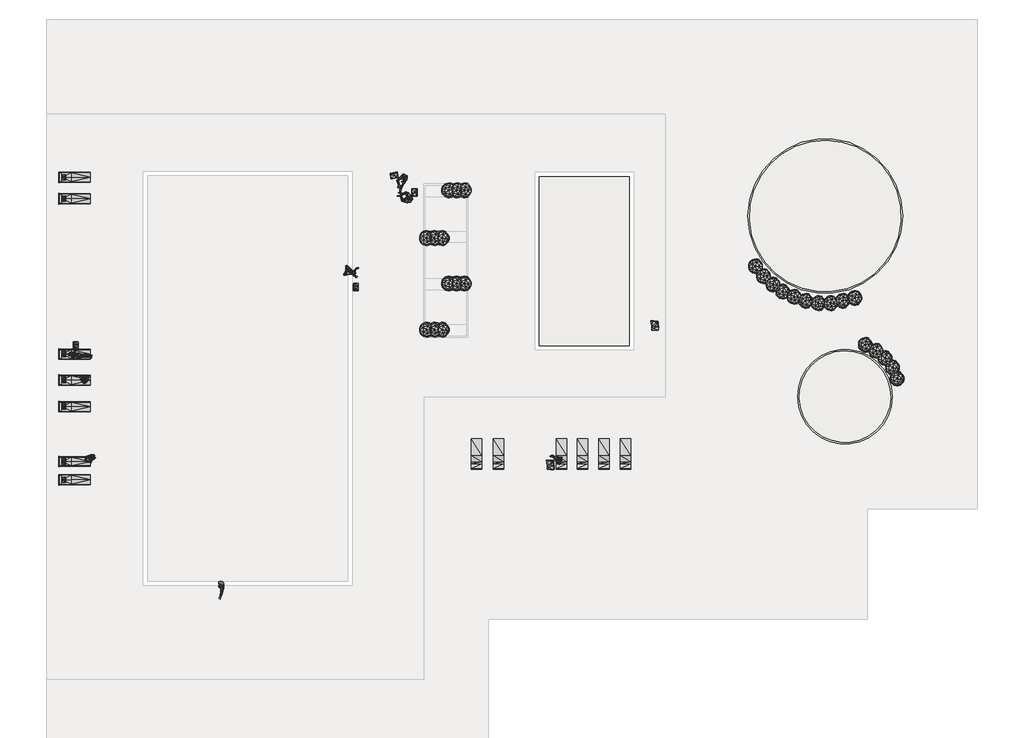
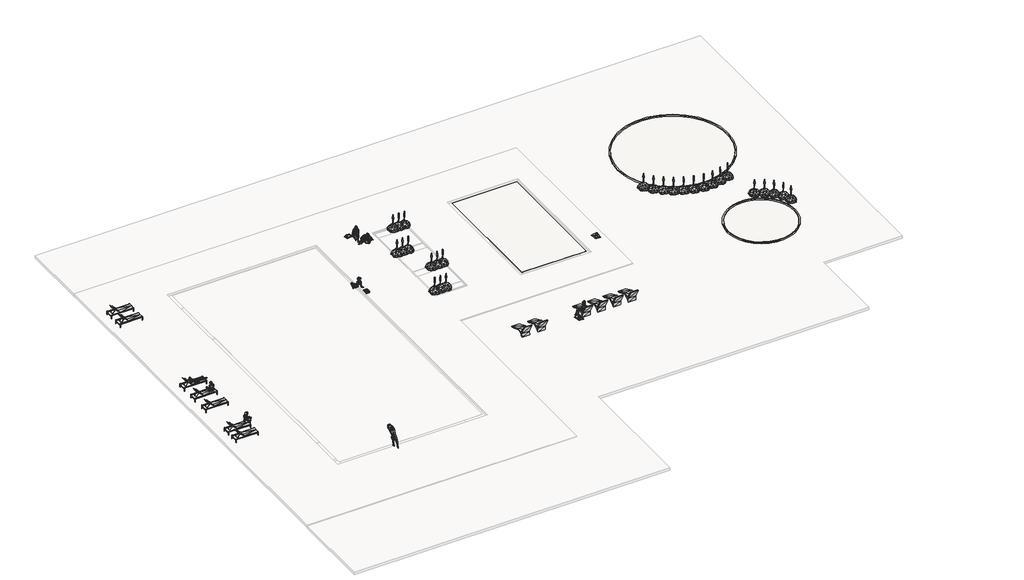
# One storey, part 2 of 2: 54 geographic elements, 6 proxies, 6 slabs.
"""IFC4 building model written with IfcOpenShell, lengths in millimetres."""

from ifc_helpers import new_model, si_unit, point, frame, frame_2d, origin, place, context, project, spatial, polyline, circle_curve, trimmed, segment, composite_curve, outline, extrude, transform, mapped, element, save
from components import generic_models_2f38e3b8, geographic_element_90c88f6b, geographic_element_3ec232f4, geographic_element_9a517dda, geographic_element_e2de325b, geographic_element_986b041f, geographic_element_7d3aa87a, geographic_element_d79e2ef8, geographic_element_a2d18596, geographic_element_6d1b33b0, enscape_assetdefinition_sun_bed_02_enscape_assetdefinition_c80486b6, enscape_assetdefinition_sun_bed_03_enscape_assetdefinition_cf905068, enscape_assetdefinition_throw_03_enscape_assetdefinition_2d4c1df4, enscape_assetdefinition_throw_04_enscape_assetdefinition_2e475fd9, enscape_assetdefinition_throw_enscape_assetdefinition_throw_fa2a812f

model = new_model("IFC4")

# Units and contexts
model_context = context("Model", 3, world=origin())
ifc_project = project(units=[si_unit("LENGTHUNIT", "METRE", prefix="MILLI")], contexts=[model_context])

# Site, building, storey
site = spatial("IfcSite", under=ifc_project)
building = spatial("IfcBuilding", under=site)
storey = spatial("IfcBuildingStorey", under=building, Name="1_NPlaya", Elevation=0.0)

# Proxies
placement = place(None, origin())
generic_models_shape = generic_models_2f38e3b8(model_context)
element("IfcBuildingElementProxy", 1, Name="ROSA GRES_115 : Pieza 115_Aqua_Plomo_Anti-Slip", ObjectType="ROSA GRES_115 : Pieza 115_Aqua_Plomo_Anti-Slip", at=placement, inside=storey, context=model_context, shape_type="MappedRepresentation", body=[
    mapped(generic_models_shape, transform((5120.0677212, 21876.3926616, -240.0), x_axis=(0.0, -1.0, 0.0), y_axis=(1.0, 0.0, 0.0), z_axis=(0.0, 0.0, 1.0))),
])
element("IfcBuildingElementProxy", 2, Name="ROSA GRES_115 : Pieza 115_Aqua_Plomo_Anti-Slip", ObjectType="ROSA GRES_115 : Pieza 115_Aqua_Plomo_Anti-Slip", at=placement, inside=storey, context=model_context, shape_type="MappedRepresentation", body=[
    mapped(generic_models_shape, transform((4520.0677212, 21276.3926616, -490.0), x_axis=(0.0, -1.0, 0.0), y_axis=(1.0, 0.0, 0.0), z_axis=(0.0, 0.0, 1.0))),
])
element("IfcBuildingElementProxy", 3, Name="ROSA GRES_115 : Pieza 115_Aqua_Plomo_Anti-Slip", ObjectType="ROSA GRES_115 : Pieza 115_Aqua_Plomo_Anti-Slip", at=placement, inside=storey, context=model_context, shape_type="MappedRepresentation", body=[
    mapped(generic_models_shape, transform((3920.0677212, 20676.3926616, -740.0), x_axis=(0.0, -1.0, 0.0), y_axis=(1.0, 0.0, 0.0), z_axis=(0.0, 0.0, 1.0))),
])
element("IfcBuildingElementProxy", 4, Name="ROSA GRES_115 : Pieza 115_Aqua_Plomo_Anti-Slip", ObjectType="ROSA GRES_115 : Pieza 115_Aqua_Plomo_Anti-Slip", at=placement, inside=storey, context=model_context, shape_type="MappedRepresentation", body=[
    mapped(generic_models_shape, transform((3320.0677212, 20076.3926616, -990.0), x_axis=(0.0, -1.0, 0.0), y_axis=(1.0, 0.0, 0.0), z_axis=(0.0, 0.0, 1.0))),
])
element("IfcBuildingElementProxy", 5, Name="ROSA GRES_115 : Pieza 115_Aqua_Plomo_Anti-Slip", ObjectType="ROSA GRES_115 : Pieza 115_Aqua_Plomo_Anti-Slip", at=placement, inside=storey, context=model_context, shape_type="MappedRepresentation", body=[
    mapped(generic_models_shape, transform((19723.8701143, 21213.4310621, -265.0), x_axis=(1.0, 0.0, 0.0), y_axis=(0.0, 1.0, 0.0), z_axis=(0.0, 0.0, 1.0))),
])
element("IfcBuildingElementProxy", 6, Name="ROSA GRES_115 : Pieza 115_Aqua_Plomo_Anti-Slip", ObjectType="ROSA GRES_115 : Pieza 115_Aqua_Plomo_Anti-Slip", at=placement, inside=storey, context=model_context, shape_type="MappedRepresentation", body=[
    mapped(generic_models_shape, transform((20973.8701143, 20013.4310621, -490.0), x_axis=(1.0, 0.0, 0.0), y_axis=(0.0, 1.0, 0.0), z_axis=(0.0, 0.0, 1.0))),
])

# Geographic elements
geographic_element_shape = geographic_element_90c88f6b(model_context)
element("IfcGeographicElement", 7, ObjectType="Enscape AssetDefinition - Desert Spoon : Enscape AssetDefinition - Desert Spoon", at=placement, inside=storey, context=model_context, shape_type="MappedRepresentation", body=[
    mapped(geographic_element_shape, transform((38811.2675148, 14481.6800495, -50.0), x_axis=(1.0, 0.0, 0.0), y_axis=(0.0, 1.0, 0.0), z_axis=(0.0, 0.0, 1.0))),
])
element("IfcGeographicElement", 8, ObjectType="Enscape AssetDefinition - Desert Spoon : Enscape AssetDefinition - Desert Spoon", at=placement, inside=storey, context=model_context, shape_type="MappedRepresentation", body=[
    mapped(geographic_element_shape, transform((39484.6488808, 14109.1712087, -50.0), x_axis=(1.0, 0.0, 0.0), y_axis=(0.0, 1.0, 0.0), z_axis=(0.0, 0.0, 1.0))),
])
element("IfcGeographicElement", 9, ObjectType="Enscape AssetDefinition - Desert Spoon : Enscape AssetDefinition - Desert Spoon", at=placement, inside=storey, context=model_context, shape_type="MappedRepresentation", body=[
    mapped(geographic_element_shape, transform((40072.0666682, 13636.3715261, -50.0), x_axis=(1.0, 0.0, 0.0), y_axis=(0.0, 1.0, 0.0), z_axis=(0.0, 0.0, 1.0))),
])
element("IfcGeographicElement", 10, ObjectType="Enscape AssetDefinition - Desert Spoon : Enscape AssetDefinition - Desert Spoon", at=placement, inside=storey, context=model_context, shape_type="MappedRepresentation", body=[
    mapped(geographic_element_shape, transform((40544.8663508, 13034.6264756, -50.0), x_axis=(1.0, 0.0, 0.0), y_axis=(0.0, 1.0, 0.0), z_axis=(0.0, 0.0, 1.0))),
])
element("IfcGeographicElement", 11, ObjectType="Enscape AssetDefinition - Desert Spoon : Enscape AssetDefinition - Desert Spoon", at=placement, inside=storey, context=model_context, shape_type="MappedRepresentation", body=[
    mapped(geographic_element_shape, transform((40831.411613, 12346.9178464, -50.0), x_axis=(1.0, 0.0, 0.0), y_axis=(0.0, 1.0, 0.0), z_axis=(0.0, 0.0, 1.0))),
])
element("IfcGeographicElement", 12, ObjectType="Enscape AssetDefinition - Desert Spoon : Enscape AssetDefinition - Desert Spoon", at=placement, inside=storey, context=model_context, shape_type="MappedRepresentation", body=[
    mapped(geographic_element_shape, transform((31849.8751077, 19462.7992734, -50.0), x_axis=(1.0, 0.0, 0.0), y_axis=(0.0, 1.0, 0.0), z_axis=(0.0, 0.0, 1.0))),
])
element("IfcGeographicElement", 13, ObjectType="Enscape AssetDefinition - Desert Spoon : Enscape AssetDefinition - Desert Spoon", at=placement, inside=storey, context=model_context, shape_type="MappedRepresentation", body=[
    mapped(geographic_element_shape, transform((32360.6731837, 18827.4163008, -50.0), x_axis=(1.0, 0.0, 0.0), y_axis=(0.0, 1.0, 0.0), z_axis=(0.0, 0.0, 1.0))),
])
element("IfcGeographicElement", 14, ObjectType="Enscape AssetDefinition - Desert Spoon : Enscape AssetDefinition - Desert Spoon", at=placement, inside=storey, context=model_context, shape_type="MappedRepresentation", body=[
    mapped(geographic_element_shape, transform((32958.6806873, 18304.1597351, -50.0), x_axis=(1.0, 0.0, 0.0), y_axis=(0.0, 1.0, 0.0), z_axis=(0.0, 0.0, 1.0))),
])
element("IfcGeographicElement", 15, ObjectType="Enscape AssetDefinition - Desert Spoon : Enscape AssetDefinition - Desert Spoon", at=placement, inside=storey, context=model_context, shape_type="MappedRepresentation", body=[
    mapped(geographic_element_shape, transform((33581.6051703, 17855.6541074, -50.0), x_axis=(1.0, 0.0, 0.0), y_axis=(0.0, 1.0, 0.0), z_axis=(0.0, 0.0, 1.0))),
])
element("IfcGeographicElement", 16, ObjectType="Enscape AssetDefinition - Desert Spoon : Enscape AssetDefinition - Desert Spoon", at=placement, inside=storey, context=model_context, shape_type="MappedRepresentation", body=[
    mapped(geographic_element_shape, transform((34291.7390808, 17531.7333763, -50.0), x_axis=(1.0, 0.0, 0.0), y_axis=(0.0, 1.0, 0.0), z_axis=(0.0, 0.0, 1.0))),
])
element("IfcGeographicElement", 17, ObjectType="Enscape AssetDefinition - Desert Spoon : Enscape AssetDefinition - Desert Spoon", at=placement, inside=storey, context=model_context, shape_type="MappedRepresentation", body=[
    mapped(geographic_element_shape, transform((35039.2484604, 17270.1050934, -50.0), x_axis=(1.0, 0.0, 0.0), y_axis=(0.0, 1.0, 0.0), z_axis=(0.0, 0.0, 1.0))),
])
element("IfcGeographicElement", 18, ObjectType="Enscape AssetDefinition - Desert Spoon : Enscape AssetDefinition - Desert Spoon", at=placement, inside=storey, context=model_context, shape_type="MappedRepresentation", body=[
    mapped(geographic_element_shape, transform((35836.5917985, 17120.6032175, -50.0), x_axis=(1.0, 0.0, 0.0), y_axis=(0.0, 1.0, 0.0), z_axis=(0.0, 0.0, 1.0))),
])
element("IfcGeographicElement", 19, ObjectType="Enscape AssetDefinition - Desert Spoon : Enscape AssetDefinition - Desert Spoon", at=placement, inside=storey, context=model_context, shape_type="MappedRepresentation", body=[
    mapped(geographic_element_shape, transform((36609.0181574, 17120.6032175, -50.0), x_axis=(1.0, 0.0, 0.0), y_axis=(0.0, 1.0, 0.0), z_axis=(0.0, 0.0, 1.0))),
])
element("IfcGeographicElement", 20, ObjectType="Enscape AssetDefinition - Desert Spoon : Enscape AssetDefinition - Desert Spoon", at=placement, inside=storey, context=model_context, shape_type="MappedRepresentation", body=[
    mapped(geographic_element_shape, transform((37381.4445163, 17270.1050934, -50.0), x_axis=(1.0, 0.0, 0.0), y_axis=(0.0, 1.0, 0.0), z_axis=(0.0, 0.0, 1.0))),
])
element("IfcGeographicElement", 21, ObjectType="Enscape AssetDefinition - Desert Spoon : Enscape AssetDefinition - Desert Spoon", at=placement, inside=storey, context=model_context, shape_type="MappedRepresentation", body=[
    mapped(geographic_element_shape, transform((38150.7302215, 17453.2946746, -50.0), x_axis=(1.0, 0.0, 0.0), y_axis=(0.0, 1.0, 0.0), z_axis=(0.0, 0.0, 1.0))),
])
element("IfcGeographicElement", 22, ObjectType="Enscape AssetDefinition - Desert Spoon : Enscape AssetDefinition - Desert Spoon", at=placement, inside=storey, context=model_context, shape_type="MappedRepresentation", body=[
    mapped(geographic_element_shape, transform((13404.8701143, 24273.4310621, -50.0), x_axis=(1.0, 0.0, 0.0), y_axis=(0.0, 1.0, 0.0), z_axis=(0.0, 0.0, 1.0))),
])
element("IfcGeographicElement", 23, ObjectType="Enscape AssetDefinition - Desert Spoon : Enscape AssetDefinition - Desert Spoon", at=placement, inside=storey, context=model_context, shape_type="MappedRepresentation", body=[
    mapped(geographic_element_shape, transform((12904.8701143, 24273.4310621, -50.0), x_axis=(1.0, 0.0, 0.0), y_axis=(0.0, 1.0, 0.0), z_axis=(0.0, 0.0, 1.0))),
])
element("IfcGeographicElement", 24, ObjectType="Enscape AssetDefinition - Desert Spoon : Enscape AssetDefinition - Desert Spoon", at=placement, inside=storey, context=model_context, shape_type="MappedRepresentation", body=[
    mapped(geographic_element_shape, transform((12404.8701143, 24273.4310621, -50.0), x_axis=(1.0, 0.0, 0.0), y_axis=(0.0, 1.0, 0.0), z_axis=(0.0, 0.0, 1.0))),
])
element("IfcGeographicElement", 25, ObjectType="Enscape AssetDefinition - Desert Spoon : Enscape AssetDefinition - Desert Spoon", at=placement, inside=storey, context=model_context, shape_type="MappedRepresentation", body=[
    mapped(geographic_element_shape, transform((13404.8701143, 18368.6310621, -50.0), x_axis=(1.0, 0.0, 0.0), y_axis=(0.0, 1.0, 0.0), z_axis=(0.0, 0.0, 1.0))),
])
element("IfcGeographicElement", 26, ObjectType="Enscape AssetDefinition - Desert Spoon : Enscape AssetDefinition - Desert Spoon", at=placement, inside=storey, context=model_context, shape_type="MappedRepresentation", body=[
    mapped(geographic_element_shape, transform((12904.8701143, 18368.6310621, -50.0), x_axis=(1.0, 0.0, 0.0), y_axis=(0.0, 1.0, 0.0), z_axis=(0.0, 0.0, 1.0))),
])
element("IfcGeographicElement", 27, ObjectType="Enscape AssetDefinition - Desert Spoon : Enscape AssetDefinition - Desert Spoon", at=placement, inside=storey, context=model_context, shape_type="MappedRepresentation", body=[
    mapped(geographic_element_shape, transform((12404.8701143, 18368.6310621, -50.0), x_axis=(1.0, 0.0, 0.0), y_axis=(0.0, 1.0, 0.0), z_axis=(0.0, 0.0, 1.0))),
])
element("IfcGeographicElement", 28, ObjectType="Enscape AssetDefinition - Desert Spoon : Enscape AssetDefinition - Desert Spoon", at=placement, inside=storey, context=model_context, shape_type="MappedRepresentation", body=[
    mapped(geographic_element_shape, transform((12000.0701143, 21245.3926616, -50.0), x_axis=(1.0, 0.0, 0.0), y_axis=(0.0, 1.0, 0.0), z_axis=(0.0, 0.0, 1.0))),
])
element("IfcGeographicElement", 29, ObjectType="Enscape AssetDefinition - Desert Spoon : Enscape AssetDefinition - Desert Spoon", at=placement, inside=storey, context=model_context, shape_type="MappedRepresentation", body=[
    mapped(geographic_element_shape, transform((11500.0701143, 21245.3926616, -50.0), x_axis=(1.0, 0.0, 0.0), y_axis=(0.0, 1.0, 0.0), z_axis=(0.0, 0.0, 1.0))),
])
element("IfcGeographicElement", 30, ObjectType="Enscape AssetDefinition - Desert Spoon : Enscape AssetDefinition - Desert Spoon", at=placement, inside=storey, context=model_context, shape_type="MappedRepresentation", body=[
    mapped(geographic_element_shape, transform((11000.0701143, 21245.3926616, -50.0), x_axis=(1.0, 0.0, 0.0), y_axis=(0.0, 1.0, 0.0), z_axis=(0.0, 0.0, 1.0))),
])
element("IfcGeographicElement", 31, ObjectType="Enscape AssetDefinition - Desert Spoon : Enscape AssetDefinition - Desert Spoon", at=placement, inside=storey, context=model_context, shape_type="MappedRepresentation", body=[
    mapped(geographic_element_shape, transform((12000.0701143, 15440.5926616, -50.0), x_axis=(1.0, 0.0, 0.0), y_axis=(0.0, 1.0, 0.0), z_axis=(0.0, 0.0, 1.0))),
])
element("IfcGeographicElement", 32, ObjectType="Enscape AssetDefinition - Desert Spoon : Enscape AssetDefinition - Desert Spoon", at=placement, inside=storey, context=model_context, shape_type="MappedRepresentation", body=[
    mapped(geographic_element_shape, transform((11500.0701143, 15440.5926616, -50.0), x_axis=(1.0, 0.0, 0.0), y_axis=(0.0, 1.0, 0.0), z_axis=(0.0, 0.0, 1.0))),
])
element("IfcGeographicElement", 33, ObjectType="Enscape AssetDefinition - Desert Spoon : Enscape AssetDefinition - Desert Spoon", at=placement, inside=storey, context=model_context, shape_type="MappedRepresentation", body=[
    mapped(geographic_element_shape, transform((11000.0701143, 15440.5926616, -50.0), x_axis=(1.0, 0.0, 0.0), y_axis=(0.0, 1.0, 0.0), z_axis=(0.0, 0.0, 1.0))),
])
geographic_element_2_shape = geographic_element_3ec232f4(model_context)
element("IfcGeographicElement", 34, ObjectType="Enscape AssetDefinition - Asya, Lying : Enscape AssetDefinition - Asya, Lying", at=placement, inside=storey, context=model_context, shape_type="MappedRepresentation", body=[
    mapped(geographic_element_2_shape, transform((-11011.7685319, 13812.5550799, 340.0), x_axis=(-0.9930230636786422, 0.11792029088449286, 0.0), y_axis=(-0.11792029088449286, -0.9930230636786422, 0.0), z_axis=(0.0, 0.0, 1.0))),
])
geographic_element_3_shape = geographic_element_9a517dda(model_context)
element("IfcGeographicElement", 35, ObjectType="Enscape AssetDefinition - Elena, Sitting : Enscape AssetDefinition - Elena, Sitting", at=placement, inside=storey, context=model_context, shape_type="MappedRepresentation", body=[
    mapped(geographic_element_3_shape, transform((19342.0652822, 7151.9002853, -50.0), x_axis=(0.13917310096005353, -0.9902680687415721, 0.0), y_axis=(0.9902680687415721, 0.13917310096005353, 0.0), z_axis=(0.0, 0.0, 1.0))),
])
geographic_element_4_shape = geographic_element_e2de325b(model_context)
element("IfcGeographicElement", 36, ObjectType="Enscape AssetDefinition - Asya Sitting : Enscape AssetDefinition - Asya Sitting", at=placement, inside=storey, context=model_context, shape_type="MappedRepresentation", body=[
    mapped(geographic_element_4_shape, transform((-10658.0490447, 12352.9996039, 330.0), x_axis=(-0.9698324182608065, 0.24377259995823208, 0.0), y_axis=(-0.24377259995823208, -0.9698324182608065, 0.0), z_axis=(0.0, 0.0, 1.0))),
])
geographic_element_5_shape = geographic_element_986b041f(model_context)
element("IfcGeographicElement", 37, ObjectType="Enscape AssetDefinition - Juliette, Sitting : Enscape AssetDefinition - Juliette, Sitting", at=placement, inside=storey, context=model_context, shape_type="MappedRepresentation", body=[
    mapped(geographic_element_5_shape, transform((6180.5853949, 19108.5669052, 0.0), x_axis=(-0.874619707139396, -0.4848096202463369, 0.0), y_axis=(0.4848096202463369, -0.874619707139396, 0.0), z_axis=(0.0, 0.0, 1.0))),
])
geographic_element_6_shape = geographic_element_7d3aa87a(model_context)
element("IfcGeographicElement", 38, ObjectType="Enscape AssetDefinition - Terrell Jumping : Enscape AssetDefinition - Terrell Jumping", at=placement, inside=storey, context=model_context, shape_type="MappedRepresentation", body=[
    mapped(geographic_element_6_shape, transform((-1900.0159135, -726.2963894, 0.0), x_axis=(-0.8746197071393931, 0.48480962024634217, 0.0), y_axis=(-0.48480962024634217, -0.8746197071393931, 0.0), z_axis=(0.0, 0.0, 1.0))),
])
geographic_element_7_shape = geographic_element_d79e2ef8(model_context)
element("IfcGeographicElement", 39, ObjectType="Enscape AssetDefinition - Terrell Sitting : Enscape AssetDefinition - Terrell Sitting", at=placement, inside=storey, context=model_context, shape_type="MappedRepresentation", body=[
    mapped(geographic_element_7_shape, transform((9915.0914169, 23721.1710411, 0.0), x_axis=(-0.4383711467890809, -0.8987940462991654, 0.0), y_axis=(0.8987940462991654, -0.4383711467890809, 0.0), z_axis=(0.0, 0.0, 1.0))),
])
geographic_element_8_shape = geographic_element_a2d18596(model_context)
element("IfcGeographicElement", 40, ObjectType="Enscape AssetDefinition - Ryan Sitting 02 : Enscape AssetDefinition - Ryan Sitting 02", at=placement, inside=storey, context=model_context, shape_type="MappedRepresentation", body=[
    mapped(geographic_element_8_shape, transform((9452.9283523, 24826.6511639, 0.0), x_axis=(0.8987940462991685, -0.4383711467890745, 0.0), y_axis=(0.4383711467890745, 0.8987940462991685, 0.0), z_axis=(0.0, 0.0, 1.0))),
])
geographic_element_9_shape = geographic_element_6d1b33b0(model_context)
element("IfcGeographicElement", 41, ObjectType="Enscape AssetDefinition - Maja Sitting : Enscape AssetDefinition - Maja Sitting", at=placement, inside=storey, context=model_context, shape_type="MappedRepresentation", body=[
    mapped(geographic_element_9_shape, transform((-10372.5213656, 7287.9802464, 0.0), x_axis=(-0.27563735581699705, 0.9612616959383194, 0.0), y_axis=(-0.9612616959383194, -0.27563735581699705, 0.0), z_axis=(0.0, 0.0, 1.0))),
])
enscape_assetdefinition_sun_bed_02_enscape_assetdefinition_shape = enscape_assetdefinition_sun_bed_02_enscape_assetdefinition_c80486b6(model_context)
element("IfcGeographicElement", 42, ObjectType="Enscape AssetDefinition - Sun Bed 02 : Enscape AssetDefinition - Sun Bed 02", at=placement, inside=storey, context=model_context, shape_type="MappedRepresentation", body=[
    mapped(enscape_assetdefinition_sun_bed_02_enscape_assetdefinition_shape, transform((23606.5216562, 7591.6933732, -50.0), x_axis=(-1.0, 0.0, 0.0), y_axis=(0.0, -1.0, 0.0), z_axis=(0.0, 0.0, 1.0))),
])
element("IfcGeographicElement", 43, ObjectType="Enscape AssetDefinition - Sun Bed 02 : Enscape AssetDefinition - Sun Bed 02", at=placement, inside=storey, context=model_context, shape_type="MappedRepresentation", body=[
    mapped(enscape_assetdefinition_sun_bed_02_enscape_assetdefinition_shape, transform((20897.5216562, 7591.6933732, -50.0), x_axis=(-1.0, 0.0, 0.0), y_axis=(0.0, -1.0, 0.0), z_axis=(0.0, 0.0, 1.0))),
])
element("IfcGeographicElement", 44, ObjectType="Enscape AssetDefinition - Sun Bed 02 : Enscape AssetDefinition - Sun Bed 02", at=placement, inside=storey, context=model_context, shape_type="MappedRepresentation", body=[
    mapped(enscape_assetdefinition_sun_bed_02_enscape_assetdefinition_shape, transform((19568.4198186, 7591.6933732, -50.0), x_axis=(-1.0, 0.0, 0.0), y_axis=(0.0, -1.0, 0.0), z_axis=(0.0, 0.0, 1.0))),
])
element("IfcGeographicElement", 45, ObjectType="Enscape AssetDefinition - Sun Bed 02 : Enscape AssetDefinition - Sun Bed 02", at=placement, inside=storey, context=model_context, shape_type="MappedRepresentation", body=[
    mapped(enscape_assetdefinition_sun_bed_02_enscape_assetdefinition_shape, transform((15572.719263, 7591.6933732, -50.0), x_axis=(-1.0, 0.0, 0.0), y_axis=(0.0, -1.0, 0.0), z_axis=(0.0, 0.0, 1.0))),
])
element("IfcGeographicElement", 46, ObjectType="Enscape AssetDefinition - Sun Bed 02 : Enscape AssetDefinition - Sun Bed 02", at=placement, inside=storey, context=model_context, shape_type="MappedRepresentation", body=[
    mapped(enscape_assetdefinition_sun_bed_02_enscape_assetdefinition_shape, transform((14172.719263, 7591.6933732, -50.0), x_axis=(-1.0, 0.0, 0.0), y_axis=(0.0, -1.0, 0.0), z_axis=(0.0, 0.0, 1.0))),
])
element("IfcGeographicElement", 47, ObjectType="Enscape AssetDefinition - Sun Bed 02 : Enscape AssetDefinition - Sun Bed 02", at=placement, inside=storey, context=model_context, shape_type="MappedRepresentation", body=[
    mapped(enscape_assetdefinition_sun_bed_02_enscape_assetdefinition_shape, transform((22266.5216562, 7591.6933732, -50.0), x_axis=(-1.0, 0.0, 0.0), y_axis=(0.0, -1.0, 0.0), z_axis=(0.0, 0.0, 1.0))),
])
enscape_assetdefinition_sun_bed_03_enscape_assetdefinition_shape = enscape_assetdefinition_sun_bed_03_enscape_assetdefinition_cf905068(model_context)
element("IfcGeographicElement", 48, ObjectType="Enscape AssetDefinition - Sun Bed 03 : Enscape AssetDefinition - Sun Bed 03", at=placement, inside=storey, context=model_context, shape_type="MappedRepresentation", body=[
    mapped(enscape_assetdefinition_sun_bed_03_enscape_assetdefinition_shape, transform((-11379.0024031, 25093.4519776, 0.0), x_axis=(0.0, 1.0, 0.0), y_axis=(-1.0, 0.0, 0.0), z_axis=(0.0, 0.0, 1.0))),
])
element("IfcGeographicElement", 49, ObjectType="Enscape AssetDefinition - Sun Bed 03 : Enscape AssetDefinition - Sun Bed 03", at=placement, inside=storey, context=model_context, shape_type="MappedRepresentation", body=[
    mapped(enscape_assetdefinition_sun_bed_03_enscape_assetdefinition_shape, transform((-11379.0024031, 23736.3926616, 0.0), x_axis=(0.0, 1.0, 0.0), y_axis=(-1.0, 0.0, 0.0), z_axis=(0.0, 0.0, 1.0))),
])
element("IfcGeographicElement", 50, ObjectType="Enscape AssetDefinition - Sun Bed 03 : Enscape AssetDefinition - Sun Bed 03", at=placement, inside=storey, context=model_context, shape_type="MappedRepresentation", body=[
    mapped(enscape_assetdefinition_sun_bed_03_enscape_assetdefinition_shape, transform((-11379.0024031, 12237.4519776, 0.0), x_axis=(0.0, 1.0, 0.0), y_axis=(-1.0, 0.0, 0.0), z_axis=(0.0, 0.0, 1.0))),
])
element("IfcGeographicElement", 51, ObjectType="Enscape AssetDefinition - Sun Bed 03 : Enscape AssetDefinition - Sun Bed 03", at=placement, inside=storey, context=model_context, shape_type="MappedRepresentation", body=[
    mapped(enscape_assetdefinition_sun_bed_03_enscape_assetdefinition_shape, transform((-11379.0024031, 10557.4519776, 0.0), x_axis=(0.0, 1.0, 0.0), y_axis=(-1.0, 0.0, 0.0), z_axis=(0.0, 0.0, 1.0))),
])
element("IfcGeographicElement", 52, ObjectType="Enscape AssetDefinition - Sun Bed 03 : Enscape AssetDefinition - Sun Bed 03", at=placement, inside=storey, context=model_context, shape_type="MappedRepresentation", body=[
    mapped(enscape_assetdefinition_sun_bed_03_enscape_assetdefinition_shape, transform((-11379.0024031, 13885.4519776, 0.0), x_axis=(0.0, 1.0, 0.0), y_axis=(-1.0, 0.0, 0.0), z_axis=(0.0, 0.0, 1.0))),
])
element("IfcGeographicElement", 53, ObjectType="Enscape AssetDefinition - Sun Bed 03 : Enscape AssetDefinition - Sun Bed 03", at=placement, inside=storey, context=model_context, shape_type="MappedRepresentation", body=[
    mapped(enscape_assetdefinition_sun_bed_03_enscape_assetdefinition_shape, transform((-11379.0024031, 7081.4519776, 0.0), x_axis=(0.0, 1.0, 0.0), y_axis=(-1.0, 0.0, 0.0), z_axis=(0.0, 0.0, 1.0))),
])
element("IfcGeographicElement", 54, ObjectType="Enscape AssetDefinition - Sun Bed 03 : Enscape AssetDefinition - Sun Bed 03", at=placement, inside=storey, context=model_context, shape_type="MappedRepresentation", body=[
    mapped(enscape_assetdefinition_sun_bed_03_enscape_assetdefinition_shape, transform((-11379.0024031, 5921.4519776, 0.0), x_axis=(0.0, 1.0, 0.0), y_axis=(-1.0, 0.0, 0.0), z_axis=(0.0, 0.0, 1.0))),
])
enscape_assetdefinition_throw_03_enscape_assetdefinition_shape = enscape_assetdefinition_throw_03_enscape_assetdefinition_2d4c1df4(model_context)
element("IfcGeographicElement", 55, ObjectType="Enscape AssetDefinition - Throw 03 : Enscape AssetDefinition - Throw 03", at=placement, inside=storey, context=model_context, shape_type="MappedRepresentation", body=[
    mapped(enscape_assetdefinition_throw_03_enscape_assetdefinition_shape, transform((25473.8701143, 15693.4310621, 0.0), x_axis=(1.0, 0.0, 0.0), y_axis=(0.0, 1.0, 0.0), z_axis=(0.0, 0.0, 1.0))),
])
element("IfcGeographicElement", 56, ObjectType="Enscape AssetDefinition - Throw 03 : Enscape AssetDefinition - Throw 03", at=placement, inside=storey, context=model_context, shape_type="MappedRepresentation", body=[
    mapped(enscape_assetdefinition_throw_03_enscape_assetdefinition_shape, transform((18854.8701143, 6864.4310621, 0.0), x_axis=(1.0, 0.0, 0.0), y_axis=(0.0, 1.0, 0.0), z_axis=(0.0, 0.0, 1.0))),
])
enscape_assetdefinition_throw_04_enscape_assetdefinition_shape = enscape_assetdefinition_throw_04_enscape_assetdefinition_2e475fd9(model_context)
element("IfcGeographicElement", 57, ObjectType="Enscape AssetDefinition - Throw 04 : Enscape AssetDefinition - Throw 04", at=placement, inside=storey, context=model_context, shape_type="MappedRepresentation", body=[
    mapped(enscape_assetdefinition_throw_04_enscape_assetdefinition_shape, transform((6525.6635969, 18141.4519776, 0.0), x_axis=(1.0, 0.0, 0.0), y_axis=(0.0, 1.0, 0.0), z_axis=(0.0, 0.0, 1.0))),
])
element("IfcGeographicElement", 58, ObjectType="Enscape AssetDefinition - Throw 04 : Enscape AssetDefinition - Throw 04", at=placement, inside=storey, context=model_context, shape_type="MappedRepresentation", body=[
    mapped(enscape_assetdefinition_throw_04_enscape_assetdefinition_shape, transform((-11220.1822788, 14436.3926616, 0.0), x_axis=(1.0, 0.0, 0.0), y_axis=(0.0, 1.0, 0.0), z_axis=(0.0, 0.0, 1.0))),
])
enscape_assetdefinition_throw_enscape_assetdefinition_throw_shape = enscape_assetdefinition_throw_enscape_assetdefinition_throw_fa2a812f(model_context)
element("IfcGeographicElement", 59, ObjectType="Enscape AssetDefinition - Throw : Enscape AssetDefinition - Throw", at=placement, inside=storey, context=model_context, shape_type="MappedRepresentation", body=[
    mapped(enscape_assetdefinition_throw_enscape_assetdefinition_throw_shape, transform((8950.7719655, 25201.4270256, 0.0), x_axis=(-0.17364817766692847, 0.9848077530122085, 0.0), y_axis=(-0.9848077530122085, -0.17364817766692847, 0.0), z_axis=(0.0, 0.0, 1.0))),
])
element("IfcGeographicElement", 60, ObjectType="Enscape AssetDefinition - Throw : Enscape AssetDefinition - Throw", at=placement, inside=storey, context=model_context, shape_type="MappedRepresentation", body=[
    mapped(enscape_assetdefinition_throw_enscape_assetdefinition_throw_shape, transform((10229.0677212, 24145.4519776, 0.0), x_axis=(1.0, 0.0, 0.0), y_axis=(0.0, 1.0, 0.0), z_axis=(0.0, 0.0, 1.0))),
])

# Slabs
element("IfcSlab", 61, ObjectType="Pieza 244 G1_Patrón Recto_Aqua_Blanco_Anti-Slip", at=placement, inside=storey, context=model_context, shape_type="SweptSolid", body=[
    extrude(outline(polyline([(23483.8435258, 24743.4044735), (23483.8435258, 14803.4576506), (18545.6788479, 14803.4576506), (18545.6788479, 19943.4044735), (21043.8967029, 19943.4044735), (21043.8967029, 24743.4044735), (23483.8435258, 24743.4044735)])), frame((0.0, 0.0, -709.0), z_axis=(0.0, 0.0, 1.0), x_axis=(1.0, 0.0, 0.0)), (0.0, 0.0, 1.0), 9.0),
])
element("IfcSlab", 62, ObjectType="Pieza 244 G1_Patrón Recto_Aqua_Blanco_Anti-Slip", at=placement, inside=storey, context=model_context, shape_type="SweptSolid", body=[
    extrude(outline(polyline([(20973.8701143, 20013.4310621), (18513.8701143, 20013.4310621), (18513.8701143, 21173.4310621), (19763.8701143, 21173.4310621), (19763.8701143, 24773.4310621), (20973.8701143, 24773.4310621), (20973.8701143, 20013.4310621)])), frame((0.0, 0.0, -459.0), z_axis=(0.0, 0.0, 1.0), x_axis=(1.0, 0.0, 0.0)), (0.0, 0.0, 1.0), 9.0),
])
element("IfcSlab", 63, ObjectType="Pieza 244 G1_Patrón Recto_Aqua_Blanco_Anti-Slip", at=placement, inside=storey, context=model_context, shape_type="SweptSolid", body=[
    extrude(outline(polyline([(19723.8701143, 21213.4310621), (18513.8701143, 21213.4310621), (18513.8701143, 24773.4310621), (19723.8701143, 24773.4310621), (19723.8701143, 21213.4310621)])), frame((0.0, 0.0, -234.0), z_axis=(0.0, 0.0, 1.0), x_axis=(1.0, 0.0, 0.0)), (0.0, 0.0, 1.0), 9.0),
])
element("IfcSlab", 64, ObjectType="GENÉRICO_LOSA 20 cm", at=placement, inside=storey, context=model_context, shape_type="SweptSolid", body=[
    extrude(outline(composite_curve([segment(trimmed(circle_curve(frame_2d((36279.7445205, 22642.4685528)), 4900.0), [point((31379.7445205, 22642.4685528))], [point((41179.7445205, 22642.4685528))], False, "CARTESIAN"), True, "CONTINUOUS"), segment(trimmed(circle_curve(frame_2d((36279.7445205, 22642.4685528)), 4900.0), [point((41179.7445205, 22642.4685528))], [point((31379.7445205, 22642.4685528))], False, "CARTESIAN"), True, "CONTINUOUS")], self_intersect=False), holes=[composite_curve([segment(trimmed(circle_curve(frame_2d((36279.7445205, 22642.4685528)), 4800.0), [point((31487.030841, 22378.0908182))], [point((41041.9440657, 23243.6802393))], True, "CARTESIAN"), True, "CONTINUOUS"), segment(trimmed(circle_curve(frame_2d((36279.7445205, 22642.4685528)), 4800.0), [point((41041.9440657, 23243.6802393))], [point((31487.030841, 22378.0908182))], True, "CARTESIAN"), True, "CONTINUOUS")], self_intersect=False)]), frame((0.0, 0.0, -150.0), z_axis=(0.0, 0.0, 1.0), x_axis=(1.0, 0.0, 0.0)), (0.0, 0.0, 1.0), 200.0),
    extrude(outline(composite_curve([segment(trimmed(circle_curve(frame_2d((37526.7800734, 11189.4519776)), 3000.0), [point((34526.7800734, 11189.4519776))], [point((40526.7800734, 11189.4519776))], False, "CARTESIAN"), True, "CONTINUOUS"), segment(trimmed(circle_curve(frame_2d((37526.7800734, 11189.4519776)), 3000.0), [point((40526.7800734, 11189.4519776))], [point((34526.7800734, 11189.4519776))], False, "CARTESIAN"), True, "CONTINUOUS")], self_intersect=False), holes=[composite_curve([segment(trimmed(circle_curve(frame_2d((37526.7800734, 11189.4519776)), 2900.0), [point((34629.5805107, 11062.0365381))], [point((40426.0975973, 11126.5401728))], True, "CARTESIAN"), True, "CONTINUOUS"), segment(trimmed(circle_curve(frame_2d((37526.7800734, 11189.4519776)), 2900.0), [point((40426.0975973, 11126.5401728))], [point((34629.5805107, 11062.0365381))], True, "CARTESIAN"), True, "CONTINUOUS")], self_intersect=False)]), frame((0.0, 0.0, -150.0), z_axis=(0.0, 0.0, 1.0), x_axis=(1.0, 0.0, 0.0)), (0.0, 0.0, 1.0), 200.0),
])
element("IfcSlab", 65, ObjectType="GENÉRICO_ARENA", at=placement, inside=storey, context=model_context, shape_type="SweptSolid", body=[
    extrude(outline(composite_curve([segment(trimmed(circle_curve(frame_2d((36279.7445205, 22642.4685528)), 4800.0), [point((31487.030841, 22378.0908182))], [point((41041.9440657, 23243.6802393))], False, "CARTESIAN"), True, "CONTINUOUS"), segment(trimmed(circle_curve(frame_2d((36279.7445205, 22642.4685528)), 4800.0), [point((41041.9440657, 23243.6802393))], [point((31487.030841, 22378.0908182))], False, "CARTESIAN"), True, "CONTINUOUS")], self_intersect=False)), frame((0.0, 0.0, -281.0), z_axis=(0.0, 0.0, 1.0), x_axis=(1.0, 0.0, 0.0)), (0.0, 0.0, 1.0), 231.0),
    extrude(outline(composite_curve([segment(trimmed(circle_curve(frame_2d((37526.7800734, 11189.4519776)), 2900.0), [point((34629.5805107, 11062.0365381))], [point((40426.0975973, 11126.5401728))], False, "CARTESIAN"), True, "CONTINUOUS"), segment(trimmed(circle_curve(frame_2d((37526.7800734, 11189.4519776)), 2900.0), [point((40426.0975973, 11126.5401728))], [point((34629.5805107, 11062.0365381))], False, "CARTESIAN"), True, "CONTINUOUS")], self_intersect=False)), frame((0.0, 0.0, -281.0), z_axis=(0.0, 0.0, 1.0), x_axis=(1.0, 0.0, 0.0)), (0.0, 0.0, 1.0), 231.0),
])
element("IfcSlab", 66, ObjectType="GENÉRICO_AGUA", at=placement, inside=storey, context=model_context, shape_type="SweptSolid", body=[
    extrude(outline(polyline([(23865.2948546, 25125.8558023), (23865.2948546, 14414.5063218), (18152.4453741, 14414.5063218), (18152.4453741, 25125.8558023), (23865.2948546, 25125.8558023)])), frame((0.0, 0.0, -16.0), z_axis=(0.0, 0.0, 1.0), x_axis=(1.0, 0.0, 0.0)), (0.0, 0.0, 1.0), 1.0),
])

save(model, "model.ifc")
